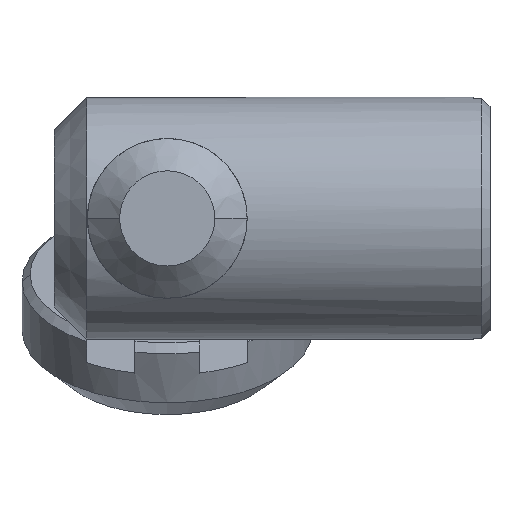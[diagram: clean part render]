
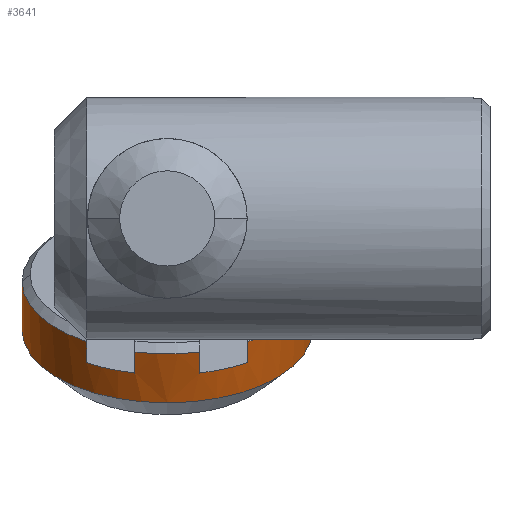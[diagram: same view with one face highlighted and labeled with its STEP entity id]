
A CAD part, front view. The second image highlights one B-rep face of the part: STEP entity #3641.
In plain terms, the highlighted cylindrical face has radius 9 mm (diameter 18 mm), a partial arc.
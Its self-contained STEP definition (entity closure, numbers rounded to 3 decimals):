
#69 = EDGE_CURVE ( 'NONE', #3669, #999, #2506, .T. ) ;
#79 = ORIENTED_EDGE ( 'NONE', *, *, #3329, .F. ) ;
#116 = CIRCLE ( 'NONE', #1629, 9. ) ;
#181 = DIRECTION ( 'NONE',  ( 0., 0.5, -0.866 ) ) ;
#196 = DIRECTION ( 'NONE',  ( 1., 0., 0. ) ) ;
#212 = DIRECTION ( 'NONE',  ( 0., -0.5, 0.866 ) ) ;
#222 = DIRECTION ( 'NONE',  ( 0., -0.5, 0.866 ) ) ;
#234 = CARTESIAN_POINT ( 'NONE',  ( -0.196, 22.179, -6.133 ) ) ;
#253 = CARTESIAN_POINT ( 'NONE',  ( 8.804, 20.179, -2.668 ) ) ;
#269 = LINE ( 'NONE', #3917, #2089 ) ;
#270 = VERTEX_POINT ( 'NONE', #1501 ) ;
#308 = LINE ( 'NONE', #253, #4337 ) ;
#408 = CARTESIAN_POINT ( 'NONE',  ( -2.196, 12.83, -7.489 ) ) ;
#491 = DIRECTION ( 'NONE',  ( 1., 0., 0. ) ) ;
#508 = DIRECTION ( 'NONE',  ( 0., -0.5, 0.866 ) ) ;
#523 = CARTESIAN_POINT ( 'NONE',  ( -0.196, 21.179, -4.4 ) ) ;
#527 = ORIENTED_EDGE ( 'NONE', *, *, #1567, .T. ) ;
#553 = VERTEX_POINT ( 'NONE', #2175 ) ;
#582 = ORIENTED_EDGE ( 'NONE', *, *, #800, .T. ) ;
#600 = VECTOR ( 'NONE', #212, 1000. ) ;
#665 = VERTEX_POINT ( 'NONE', #2334 ) ;
#697 = ORIENTED_EDGE ( 'NONE', *, *, #3019, .F. ) ;
#698 = CARTESIAN_POINT ( 'NONE',  ( -0.196, 20.429, -3.101 ) ) ;
#703 = DIRECTION ( 'NONE',  ( 0., 0.5, -0.866 ) ) ;
#713 = DIRECTION ( 'NONE',  ( 1., 0., 0. ) ) ;
#765 = ORIENTED_EDGE ( 'NONE', *, *, #1919, .F. ) ;
#800 = EDGE_CURVE ( 'NONE', #2225, #553, #3786, .T. ) ;
#986 = LINE ( 'NONE', #4451, #600 ) ;
#999 = VERTEX_POINT ( 'NONE', #3364 ) ;
#1088 = ORIENTED_EDGE ( 'NONE', *, *, #3970, .T. ) ;
#1098 = CARTESIAN_POINT ( 'NONE',  ( -0.196, 20.429, -3.101 ) ) ;
#1111 = VECTOR ( 'NONE', #2581, 1000. ) ;
#1137 = DIRECTION ( 'NONE',  ( 0., 0.5, -0.866 ) ) ;
#1150 = DIRECTION ( 'NONE',  ( 1., 0., 0. ) ) ;
#1261 = ORIENTED_EDGE ( 'NONE', *, *, #2427, .F. ) ;
#1286 = LINE ( 'NONE', #2533, #1111 ) ;
#1408 = VERTEX_POINT ( 'NONE', #408 ) ;
#1501 = CARTESIAN_POINT ( 'NONE',  ( -2.196, 13.58, -8.788 ) ) ;
#1549 = AXIS2_PLACEMENT_3D ( 'NONE', #2215, #2203, #2187 ) ;
#1567 = EDGE_CURVE ( 'NONE', #553, #1408, #4252, .T. ) ;
#1618 = EDGE_LOOP ( 'NONE', ( #1261, #1088, #765, #697, #582, #527, #79, #4668, #4398, #3924, #3526, #3294 ) ) ;
#1629 = AXIS2_PLACEMENT_3D ( 'NONE', #2186, #2180, #2166 ) ;
#1746 = VERTEX_POINT ( 'NONE', #2377 ) ;
#1764 = EDGE_CURVE ( 'NONE', #999, #1992, #1286, .T. ) ;
#1869 = AXIS2_PLACEMENT_3D ( 'NONE', #2368, #2394, #2379 ) ;
#1919 = EDGE_CURVE ( 'NONE', #3931, #1746, #2866, .T. ) ;
#1951 = VERTEX_POINT ( 'NONE', #3234 ) ;
#1992 = VERTEX_POINT ( 'NONE', #3549 ) ;
#2042 = FACE_OUTER_BOUND ( 'NONE', #1618, .T. ) ;
#2052 = CARTESIAN_POINT ( 'NONE',  ( 1.804, 13.58, -8.788 ) ) ;
#2056 = EDGE_CURVE ( 'NONE', #1951, #3669, #986, .T. ) ;
#2089 = VECTOR ( 'NONE', #3948, 1000. ) ;
#2166 = DIRECTION ( 'NONE',  ( -1., 0., 0. ) ) ;
#2175 = CARTESIAN_POINT ( 'NONE',  ( 1.804, 12.83, -7.489 ) ) ;
#2180 = DIRECTION ( 'NONE',  ( 0., 0.5, -0.866 ) ) ;
#2186 = CARTESIAN_POINT ( 'NONE',  ( -0.196, 21.179, -4.4 ) ) ;
#2187 = DIRECTION ( 'NONE',  ( 1., 0., 0. ) ) ;
#2203 = DIRECTION ( 'NONE',  ( 0., 0.5, -0.866 ) ) ;
#2214 = CARTESIAN_POINT ( 'NONE',  ( -5.196, 13.949, -6.843 ) ) ;
#2215 = CARTESIAN_POINT ( 'NONE',  ( -0.196, 20.429, -3.101 ) ) ;
#2225 = VERTEX_POINT ( 'NONE', #2052 ) ;
#2285 = AXIS2_PLACEMENT_3D ( 'NONE', #698, #703, #713 ) ;
#2334 = CARTESIAN_POINT ( 'NONE',  ( 8.804, 22.179, -6.133 ) ) ;
#2357 = CIRCLE ( 'NONE', #3249, 9. ) ;
#2368 = CARTESIAN_POINT ( 'NONE',  ( -0.196, 20.179, -2.668 ) ) ;
#2377 = CARTESIAN_POINT ( 'NONE',  ( 4.804, 13.949, -6.843 ) ) ;
#2379 = DIRECTION ( 'NONE',  ( -1., 0., 0. ) ) ;
#2394 = DIRECTION ( 'NONE',  ( 0., 0.5, -0.866 ) ) ;
#2406 = AXIS2_PLACEMENT_3D ( 'NONE', #1098, #1137, #1150 ) ;
#2427 = EDGE_CURVE ( 'NONE', #2555, #665, #308, .T. ) ;
#2486 = AXIS2_PLACEMENT_3D ( 'NONE', #523, #508, #491 ) ;
#2506 = CIRCLE ( 'NONE', #2406, 9. ) ;
#2513 = CARTESIAN_POINT ( 'NONE',  ( 1.804, 13.58, -8.788 ) ) ;
#2533 = CARTESIAN_POINT ( 'NONE',  ( -9.196, 20.179, -2.668 ) ) ;
#2555 = VERTEX_POINT ( 'NONE', #4698 ) ;
#2581 = DIRECTION ( 'NONE',  ( 0., 0.5, -0.866 ) ) ;
#2585 = DIRECTION ( 'NONE',  ( 0., -0.5, 0.866 ) ) ;
#2676 = CARTESIAN_POINT ( 'NONE',  ( 4.804, 14.699, -8.142 ) ) ;
#2866 = LINE ( 'NONE', #2874, #3926 ) ;
#2874 = CARTESIAN_POINT ( 'NONE',  ( 4.804, 14.699, -8.142 ) ) ;
#3019 = EDGE_CURVE ( 'NONE', #2225, #3931, #3701, .T. ) ;
#3053 = EDGE_CURVE ( 'NONE', #1992, #665, #2357, .T. ) ;
#3234 = CARTESIAN_POINT ( 'NONE',  ( -5.196, 14.699, -8.142 ) ) ;
#3249 = AXIS2_PLACEMENT_3D ( 'NONE', #234, #222, #196 ) ;
#3294 = ORIENTED_EDGE ( 'NONE', *, *, #3053, .T. ) ;
#3329 = EDGE_CURVE ( 'NONE', #270, #1408, #269, .T. ) ;
#3364 = CARTESIAN_POINT ( 'NONE',  ( -9.196, 20.429, -3.101 ) ) ;
#3526 = ORIENTED_EDGE ( 'NONE', *, *, #1764, .T. ) ;
#3549 = CARTESIAN_POINT ( 'NONE',  ( -9.196, 22.179, -6.133 ) ) ;
#3641 = ADVANCED_FACE ( 'NONE', ( #2042 ), #3858, .T. ) ;
#3669 = VERTEX_POINT ( 'NONE', #2214 ) ;
#3670 = EDGE_CURVE ( 'NONE', #270, #1951, #116, .T. ) ;
#3675 = DIRECTION ( 'NONE',  ( 0., -0.5, 0.866 ) ) ;
#3701 = CIRCLE ( 'NONE', #2486, 9. ) ;
#3730 = VECTOR ( 'NONE', #2585, 1000. ) ;
#3786 = LINE ( 'NONE', #2513, #3730 ) ;
#3858 = CYLINDRICAL_SURFACE ( 'NONE', #1869, 9. ) ;
#3917 = CARTESIAN_POINT ( 'NONE',  ( -2.196, 13.58, -8.788 ) ) ;
#3924 = ORIENTED_EDGE ( 'NONE', *, *, #69, .T. ) ;
#3926 = VECTOR ( 'NONE', #3675, 1000. ) ;
#3931 = VERTEX_POINT ( 'NONE', #2676 ) ;
#3948 = DIRECTION ( 'NONE',  ( 0., -0.5, 0.866 ) ) ;
#3970 = EDGE_CURVE ( 'NONE', #2555, #1746, #4261, .T. ) ;
#4252 = CIRCLE ( 'NONE', #2285, 9. ) ;
#4261 = CIRCLE ( 'NONE', #1549, 9. ) ;
#4337 = VECTOR ( 'NONE', #181, 1000. ) ;
#4398 = ORIENTED_EDGE ( 'NONE', *, *, #2056, .T. ) ;
#4451 = CARTESIAN_POINT ( 'NONE',  ( -5.196, 14.699, -8.142 ) ) ;
#4668 = ORIENTED_EDGE ( 'NONE', *, *, #3670, .T. ) ;
#4698 = CARTESIAN_POINT ( 'NONE',  ( 8.804, 20.429, -3.101 ) ) ;
